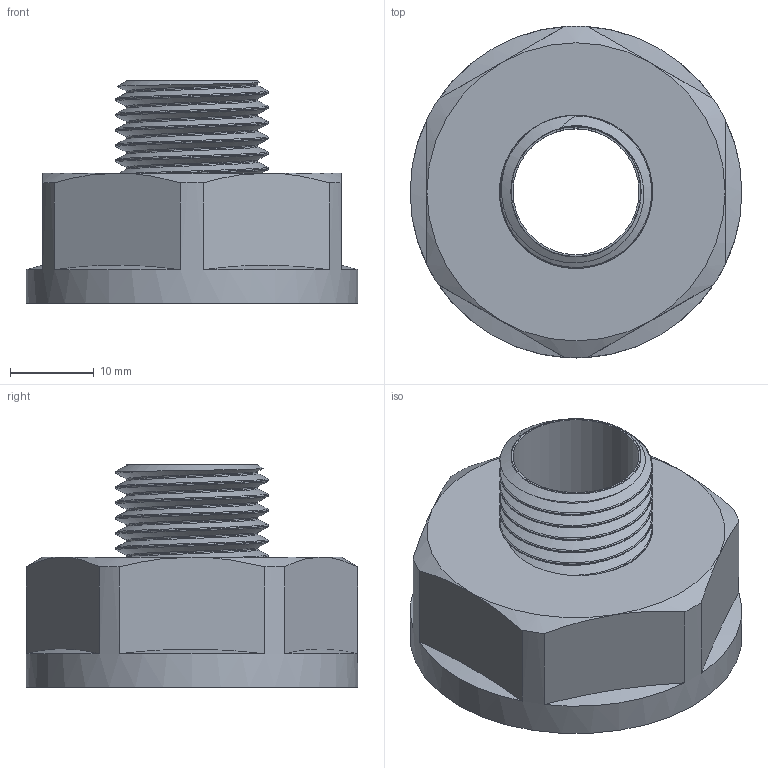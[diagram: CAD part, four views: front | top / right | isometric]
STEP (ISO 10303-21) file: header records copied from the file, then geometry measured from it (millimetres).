
FILE_DESCRIPTION(/* description */ (''),/* implementation_level */ '2;1');
FILE_NAME(/* name */ 'C:\Users\Doom\Desktop\Фадотех\Резьба\P01 18.03.2020\P01 18.03.2020.stp',/* time_stamp */ '2022-01-09T23:25:03+02:00',/* author */ ('Doom'),/* organization */ (''),/* preprocessor_version */ 'ST-DEVELOPER v18',/* originating_system */ 'Autodesk Inventor 2020',/* authorisation */ '');
FILE_SCHEMA (('AUTOMOTIVE_DESIGN { 1 0 10303 214 3 1 1 }'));
Length unit declared in the file: millimetre
Products named in the file (1): P01 18.03.2020
Bounding box: 39.5 x 39.5 x 26.5 mm (x, y, z)
Volume: 8148.3 mm3; surface area: 12267.2 mm2
Topology: 3 solids, 3 shells, 60 faces, 158 edges, 105 vertices
Faces by surface type: cylinder 21, cone 14, plane 13, bspline 12
Full cylindrical faces by diameter (mm): 15 x1, 15.535 x2, 18.225 x5, 30.165 x6, 33.589 x2, 39.5 x1
Entity records: 8632 total; most frequent: CARTESIAN_POINT 7263, ORIENTED_EDGE 316, DIRECTION 219, EDGE_CURVE 158, VERTEX_POINT 105, AXIS2_PLACEMENT_3D 93, EDGE_LOOP 67, B_SPLINE_CURVE_WITH_KNOTS 63
